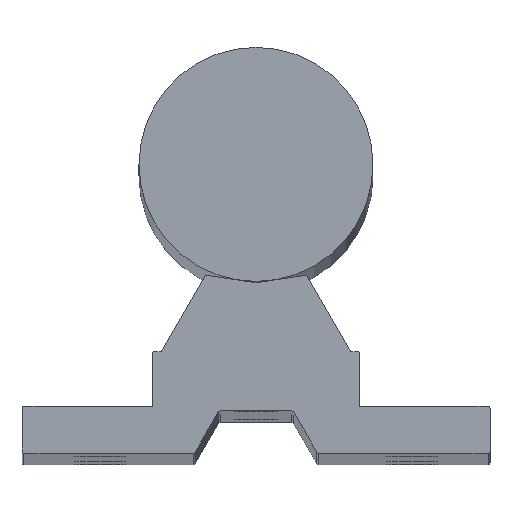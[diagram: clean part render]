
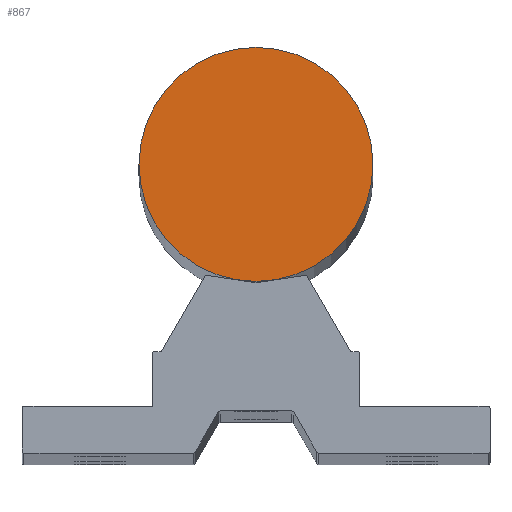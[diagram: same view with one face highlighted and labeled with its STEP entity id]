
A CAD part, top view. The second image highlights one B-rep face of the part: STEP entity #867.
In plain terms, the highlighted planar face has unit normal (0, 0, 1).
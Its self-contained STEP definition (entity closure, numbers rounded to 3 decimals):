
#42 = CARTESIAN_POINT ( 'NONE',  ( -15., 0., 425. ) ) ;
#247 = CARTESIAN_POINT ( 'NONE',  ( 0., 0., 425. ) ) ;
#306 = DIRECTION ( 'NONE',  ( 1., 0., 0. ) ) ;
#578 = DIRECTION ( 'NONE',  ( 1., 0., 0. ) ) ;
#596 = CIRCLE ( 'NONE', #2216, 15. ) ;
#867 = ADVANCED_FACE ( 'NONE', ( #1945 ), #1934, .T. ) ;
#1027 = CARTESIAN_POINT ( 'NONE',  ( 0., 0., 425. ) ) ;
#1035 = EDGE_LOOP ( 'NONE', ( #1330, #1434 ) ) ;
#1039 = DIRECTION ( 'NONE',  ( 0., 0., 1. ) ) ;
#1105 = VERTEX_POINT ( 'NONE', #42 ) ;
#1137 = AXIS2_PLACEMENT_3D ( 'NONE', #247, #2533, #1430 ) ;
#1330 = ORIENTED_EDGE ( 'NONE', *, *, #2684, .T. ) ;
#1430 = DIRECTION ( 'NONE',  ( 1., 0., 0. ) ) ;
#1434 = ORIENTED_EDGE ( 'NONE', *, *, #1750, .T. ) ;
#1541 = VERTEX_POINT ( 'NONE', #2337 ) ;
#1716 = DIRECTION ( 'NONE',  ( 0., 0., 1. ) ) ;
#1750 = EDGE_CURVE ( 'NONE', #1541, #1105, #596, .T. ) ;
#1934 = PLANE ( 'NONE',  #2116 ) ;
#1945 = FACE_OUTER_BOUND ( 'NONE', #1035, .T. ) ;
#2116 = AXIS2_PLACEMENT_3D ( 'NONE', #1027, #1716, #578 ) ;
#2190 = CARTESIAN_POINT ( 'NONE',  ( 0., 0., 425. ) ) ;
#2216 = AXIS2_PLACEMENT_3D ( 'NONE', #2190, #1039, #306 ) ;
#2337 = CARTESIAN_POINT ( 'NONE',  ( 15., 0., 425. ) ) ;
#2533 = DIRECTION ( 'NONE',  ( 0., 0., 1. ) ) ;
#2621 = CIRCLE ( 'NONE', #1137, 15. ) ;
#2684 = EDGE_CURVE ( 'NONE', #1105, #1541, #2621, .T. ) ;
